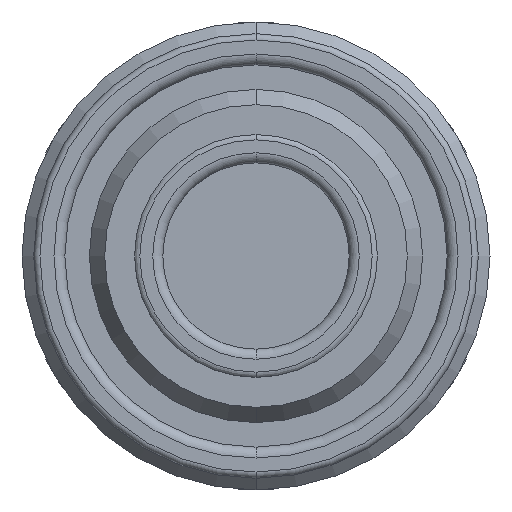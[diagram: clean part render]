
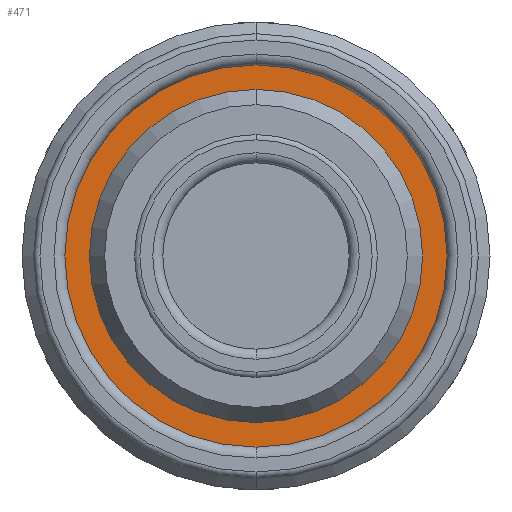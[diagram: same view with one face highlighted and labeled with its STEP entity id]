
A CAD part, front view. The second image highlights one B-rep face of the part: STEP entity #471.
In plain terms, the highlighted planar face has unit normal (0, -1, 0) by its records, which use the part's own axes.
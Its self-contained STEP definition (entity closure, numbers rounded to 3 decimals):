
#274=PLANE('',#2902);
#315=FACE_BOUND('',#840,.T.);
#316=FACE_BOUND('',#841,.T.);
#471=ADVANCED_FACE('',(#315,#316),#274,.T.);
#840=EDGE_LOOP('',(#1562,#1563));
#841=EDGE_LOOP('',(#1564,#1565));
#1562=ORIENTED_EDGE('',*,*,#2298,.T.);
#1563=ORIENTED_EDGE('',*,*,#2299,.T.);
#1564=ORIENTED_EDGE('',*,*,#2297,.F.);
#1565=ORIENTED_EDGE('',*,*,#2295,.F.);
#1985=VERTEX_POINT('',#4575);
#1986=VERTEX_POINT('',#4577);
#1987=VERTEX_POINT('',#4583);
#1988=VERTEX_POINT('',#4584);
#2295=EDGE_CURVE('',#1985,#1986,#2575,.T.);
#2297=EDGE_CURVE('',#1986,#1985,#2576,.T.);
#2298=EDGE_CURVE('',#1987,#1988,#2577,.T.);
#2299=EDGE_CURVE('',#1988,#1987,#2578,.T.);
#2575=CIRCLE('',#2896,10.68);
#2576=CIRCLE('',#2898,10.68);
#2577=CIRCLE('',#2900,13.9);
#2578=CIRCLE('',#2901,13.9);
#2896=AXIS2_PLACEMENT_3D('',#4576,#3611,#3612);
#2898=AXIS2_PLACEMENT_3D('',#4580,#3616,#3617);
#2900=AXIS2_PLACEMENT_3D('',#4582,#3620,#3621);
#2901=AXIS2_PLACEMENT_3D('',#4585,#3622,#3623);
#2902=AXIS2_PLACEMENT_3D('',#4586,#3624,#3625);
#3611=DIRECTION('',(0.,-1.,0.));
#3612=DIRECTION('',(0.,0.,-1.));
#3616=DIRECTION('',(0.,-1.,0.));
#3617=DIRECTION('',(0.,0.,-1.));
#3620=DIRECTION('',(0.,-1.,0.));
#3621=DIRECTION('',(0.,0.,-1.));
#3622=DIRECTION('',(0.,-1.,0.));
#3623=DIRECTION('',(0.,0.,-1.));
#3624=DIRECTION('',(0.,-1.,0.));
#3625=DIRECTION('',(0.,0.,-1.));
#4575=CARTESIAN_POINT('',(0.,0.1,-10.68));
#4576=CARTESIAN_POINT('',(0.,0.1,0.));
#4577=CARTESIAN_POINT('',(0.,0.1,10.68));
#4580=CARTESIAN_POINT('',(0.,0.1,0.));
#4582=CARTESIAN_POINT('',(0.,0.1,0.));
#4583=CARTESIAN_POINT('',(0.,0.1,-13.9));
#4584=CARTESIAN_POINT('',(0.,0.1,13.9));
#4585=CARTESIAN_POINT('',(0.,0.1,0.));
#4586=CARTESIAN_POINT('',(0.,0.1,0.));
